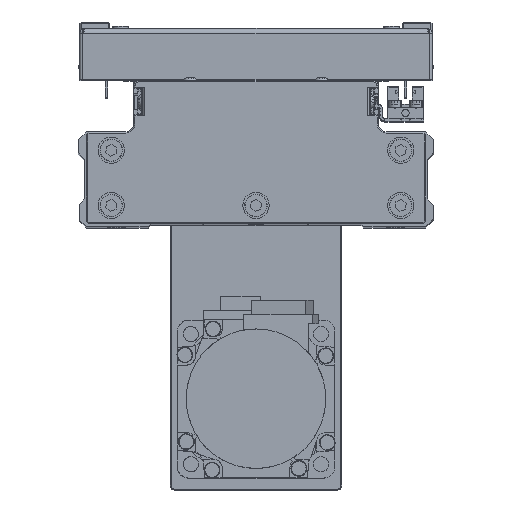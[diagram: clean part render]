
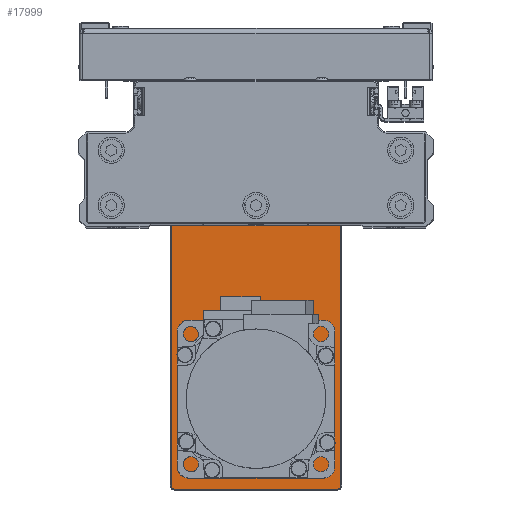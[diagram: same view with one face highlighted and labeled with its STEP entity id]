
A CAD part, top view. The second image highlights one B-rep face of the part: STEP entity #17999.
In plain terms, the highlighted planar face has unit normal (0, 0, 1) as drawn and (0, 1, 0) by its records, which use the part's own axes.
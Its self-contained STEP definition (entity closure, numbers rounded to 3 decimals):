
#136 = ORIENTED_EDGE ( 'NONE', *, *, #42461, .F. ) ;
#463 = ORIENTED_EDGE ( 'NONE', *, *, #11780, .T. ) ;
#522 = CARTESIAN_POINT ( 'NONE',  ( 84.7, 6., 0. ) ) ;
#863 = CIRCLE ( 'NONE', #24671, 15. ) ;
#923 = LINE ( 'NONE', #14386, #5919 ) ;
#1025 = ORIENTED_EDGE ( 'NONE', *, *, #9730, .F. ) ;
#1259 = DIRECTION ( 'NONE',  ( 0., 1., 0. ) ) ;
#1373 = CARTESIAN_POINT ( 'NONE',  ( 83.5, 6., 32.2 ) ) ;
#1389 = CARTESIAN_POINT ( 'NONE',  ( 84.7, 6., 31. ) ) ;
#1735 = AXIS2_PLACEMENT_3D ( 'NONE', #35506, #5283, #18746 ) ;
#1746 = FACE_BOUND ( 'NONE', #6910, .T. ) ;
#2269 = AXIS2_PLACEMENT_3D ( 'NONE', #5813, #19290, #32763 ) ;
#2864 = ORIENTED_EDGE ( 'NONE', *, *, #43309, .F. ) ;
#3233 = ORIENTED_EDGE ( 'NONE', *, *, #35255, .T. ) ;
#3277 = DIRECTION ( 'NONE',  ( 0., 1., 0. ) ) ;
#3352 = CARTESIAN_POINT ( 'NONE',  ( 83.5, 6., 31. ) ) ;
#3559 = VECTOR ( 'NONE', #9132, 1000. ) ;
#3754 = EDGE_CURVE ( 'NONE', #41441, #23006, #21292, .T. ) ;
#4466 = VECTOR ( 'NONE', #13300, 1000. ) ;
#4850 = ORIENTED_EDGE ( 'NONE', *, *, #10275, .T. ) ;
#4997 = DIRECTION ( 'NONE',  ( 0., 0., 1. ) ) ;
#5283 = DIRECTION ( 'NONE',  ( 0., -1., 0. ) ) ;
#5494 = EDGE_CURVE ( 'NONE', #9817, #11432, #25662, .T. ) ;
#5813 = CARTESIAN_POINT ( 'NONE',  ( 75.992, 6., -8.551 ) ) ;
#5890 = AXIS2_PLACEMENT_3D ( 'NONE', #11875, #25361, #38791 ) ;
#5919 = VECTOR ( 'NONE', #27862, 1000. ) ;
#5986 = CARTESIAN_POINT ( 'NONE',  ( -83.5, 6., -31. ) ) ;
#6100 = CIRCLE ( 'NONE', #30792, 15. ) ;
#6603 = AXIS2_PLACEMENT_3D ( 'NONE', #5986, #19458, #32927 ) ;
#6910 = EDGE_LOOP ( 'NONE', ( #7680, #17624 ) ) ;
#7170 = CIRCLE ( 'NONE', #31869, 1.2 ) ;
#7680 = ORIENTED_EDGE ( 'NONE', *, *, #9376, .T. ) ;
#7928 = CARTESIAN_POINT ( 'NONE',  ( -50.5, 6., 0. ) ) ;
#8142 = DIRECTION ( 'NONE',  ( 0., 0., 1. ) ) ;
#8149 = EDGE_CURVE ( 'NONE', #23006, #41441, #43143, .T. ) ;
#8921 = CARTESIAN_POINT ( 'NONE',  ( 52.5, 6., 10.3 ) ) ;
#9132 = DIRECTION ( 'NONE',  ( 0., 0., 1. ) ) ;
#9269 = EDGE_CURVE ( 'NONE', #28102, #9817, #30088, .T. ) ;
#9376 = EDGE_CURVE ( 'NONE', #26812, #29261, #13638, .T. ) ;
#9730 = EDGE_CURVE ( 'NONE', #27104, #28856, #863, .T. ) ;
#9817 = VERTEX_POINT ( 'NONE', #14988 ) ;
#10275 = EDGE_CURVE ( 'NONE', #11432, #38414, #25917, .T. ) ;
#10561 = VERTEX_POINT ( 'NONE', #1373 ) ;
#11160 = DIRECTION ( 'NONE',  ( 0., 0., 1. ) ) ;
#11432 = VERTEX_POINT ( 'NONE', #41972 ) ;
#11469 = ORIENTED_EDGE ( 'NONE', *, *, #9269, .T. ) ;
#11780 = EDGE_CURVE ( 'NONE', #30435, #28102, #7170, .T. ) ;
#11875 = CARTESIAN_POINT ( 'NONE',  ( 0., 6., 0. ) ) ;
#12135 = CARTESIAN_POINT ( 'NONE',  ( -50.5, 6., 15. ) ) ;
#13300 = DIRECTION ( 'NONE',  ( -1., 0., 0. ) ) ;
#13638 = CIRCLE ( 'NONE', #38286, 10.3 ) ;
#13750 = CARTESIAN_POINT ( 'NONE',  ( 52.5, 6., 0. ) ) ;
#13974 = DIRECTION ( 'NONE',  ( 0., 0., -1. ) ) ;
#14386 = CARTESIAN_POINT ( 'NONE',  ( 0., 6., 32.2 ) ) ;
#14722 = DIRECTION ( 'NONE',  ( 0., 0., -1. ) ) ;
#14819 = CARTESIAN_POINT ( 'NONE',  ( 61.051, 6., 23.492 ) ) ;
#14988 = CARTESIAN_POINT ( 'NONE',  ( -83.5, 6., -32.2 ) ) ;
#15150 = ORIENTED_EDGE ( 'NONE', *, *, #5494, .T. ) ;
#15196 = FACE_OUTER_BOUND ( 'NONE', #16600, .T. ) ;
#15478 = AXIS2_PLACEMENT_3D ( 'NONE', #3352, #16805, #30286 ) ;
#15777 = VERTEX_POINT ( 'NONE', #1389 ) ;
#16028 = CIRCLE ( 'NONE', #40688, 1.525 ) ;
#16600 = EDGE_LOOP ( 'NONE', ( #463, #11469, #15150, #4850, #36783, #22472, #3233, #37251 ) ) ;
#16727 = DIRECTION ( 'NONE',  ( 0., 0., -1. ) ) ;
#16805 = DIRECTION ( 'NONE',  ( 0., 1., 0. ) ) ;
#17624 = ORIENTED_EDGE ( 'NONE', *, *, #24012, .T. ) ;
#17745 = CARTESIAN_POINT ( 'NONE',  ( 75.992, 6., -7.026 ) ) ;
#17944 = CIRCLE ( 'NONE', #42613, 1.2 ) ;
#17999 = ADVANCED_FACE ( 'NONE', ( #18509, #31989, #1746, #15196, #28668 ), #42104, .F. ) ;
#18509 = FACE_BOUND ( 'NONE', #33379, .T. ) ;
#18746 = DIRECTION ( 'NONE',  ( 0., 0., -1. ) ) ;
#19290 = DIRECTION ( 'NONE',  ( 0., 1., 0. ) ) ;
#19458 = DIRECTION ( 'NONE',  ( 0., 1., 0. ) ) ;
#20435 = CARTESIAN_POINT ( 'NONE',  ( 84.7, 6., -31. ) ) ;
#20719 = VERTEX_POINT ( 'NONE', #28692 ) ;
#20755 = CIRCLE ( 'NONE', #1735, 10.3 ) ;
#21087 = AXIS2_PLACEMENT_3D ( 'NONE', #27956, #41387, #11160 ) ;
#21292 = CIRCLE ( 'NONE', #2269, 1.525 ) ;
#21398 = DIRECTION ( 'NONE',  ( 0., 1., 0. ) ) ;
#21777 = CARTESIAN_POINT ( 'NONE',  ( -50.5, 6., 0. ) ) ;
#22472 = ORIENTED_EDGE ( 'NONE', *, *, #23407, .T. ) ;
#22839 = CARTESIAN_POINT ( 'NONE',  ( 83.5, 6., -32.2 ) ) ;
#22898 = ORIENTED_EDGE ( 'NONE', *, *, #36342, .F. ) ;
#23006 = VERTEX_POINT ( 'NONE', #17745 ) ;
#23407 = EDGE_CURVE ( 'NONE', #20719, #10561, #923, .T. ) ;
#24012 = EDGE_CURVE ( 'NONE', #29261, #26812, #20755, .T. ) ;
#24131 = AXIS2_PLACEMENT_3D ( 'NONE', #24927, #38364, #8142 ) ;
#24240 = EDGE_CURVE ( 'NONE', #38414, #20719, #17944, .T. ) ;
#24671 = AXIS2_PLACEMENT_3D ( 'NONE', #7928, #21398, #34861 ) ;
#24927 = CARTESIAN_POINT ( 'NONE',  ( 75.992, 6., -8.551 ) ) ;
#25361 = DIRECTION ( 'NONE',  ( 0., -1., 0. ) ) ;
#25662 = CIRCLE ( 'NONE', #6603, 1.2 ) ;
#25917 = LINE ( 'NONE', #39358, #3559 ) ;
#26042 = VERTEX_POINT ( 'NONE', #29244 ) ;
#26046 = VERTEX_POINT ( 'NONE', #42678 ) ;
#26812 = VERTEX_POINT ( 'NONE', #8921 ) ;
#27104 = VERTEX_POINT ( 'NONE', #35138 ) ;
#27219 = DIRECTION ( 'NONE',  ( 0., -1., 0. ) ) ;
#27862 = DIRECTION ( 'NONE',  ( 1., 0., 0. ) ) ;
#27956 = CARTESIAN_POINT ( 'NONE',  ( 61.051, 6., 23.492 ) ) ;
#28102 = VERTEX_POINT ( 'NONE', #22839 ) ;
#28290 = DIRECTION ( 'NONE',  ( 0., 1., 0. ) ) ;
#28668 = FACE_BOUND ( 'NONE', #33124, .T. ) ;
#28692 = CARTESIAN_POINT ( 'NONE',  ( -83.5, 6., 32.2 ) ) ;
#28856 = VERTEX_POINT ( 'NONE', #12135 ) ;
#29244 = CARTESIAN_POINT ( 'NONE',  ( 61.051, 6., 21.967 ) ) ;
#29261 = VERTEX_POINT ( 'NONE', #39218 ) ;
#29285 = VECTOR ( 'NONE', #13974, 1000. ) ;
#29632 = EDGE_LOOP ( 'NONE', ( #33328, #30274 ) ) ;
#30088 = LINE ( 'NONE', #43520, #4466 ) ;
#30274 = ORIENTED_EDGE ( 'NONE', *, *, #3754, .F. ) ;
#30286 = DIRECTION ( 'NONE',  ( 0., 0., -1. ) ) ;
#30435 = VERTEX_POINT ( 'NONE', #20435 ) ;
#30769 = LINE ( 'NONE', #522, #29285 ) ;
#30792 = AXIS2_PLACEMENT_3D ( 'NONE', #21777, #35224, #4997 ) ;
#30887 = EDGE_CURVE ( 'NONE', #15777, #30435, #30769, .T. ) ;
#31514 = CARTESIAN_POINT ( 'NONE',  ( 83.5, 6., -31. ) ) ;
#31869 = AXIS2_PLACEMENT_3D ( 'NONE', #31514, #1259, #14722 ) ;
#31989 = FACE_BOUND ( 'NONE', #29632, .T. ) ;
#32763 = DIRECTION ( 'NONE',  ( 0., 0., 1. ) ) ;
#32927 = DIRECTION ( 'NONE',  ( 0., 0., -1. ) ) ;
#33124 = EDGE_LOOP ( 'NONE', ( #136, #1025 ) ) ;
#33328 = ORIENTED_EDGE ( 'NONE', *, *, #8149, .F. ) ;
#33379 = EDGE_LOOP ( 'NONE', ( #2864, #22898 ) ) ;
#33516 = CARTESIAN_POINT ( 'NONE',  ( -83.5, 6., 31. ) ) ;
#34514 = CIRCLE ( 'NONE', #15478, 1.2 ) ;
#34861 = DIRECTION ( 'NONE',  ( 0., 0., 1. ) ) ;
#35138 = CARTESIAN_POINT ( 'NONE',  ( -50.5, 6., -15. ) ) ;
#35224 = DIRECTION ( 'NONE',  ( 0., 1., 0. ) ) ;
#35255 = EDGE_CURVE ( 'NONE', #10561, #15777, #34514, .T. ) ;
#35506 = CARTESIAN_POINT ( 'NONE',  ( 52.5, 6., 0. ) ) ;
#36342 = EDGE_CURVE ( 'NONE', #26042, #26046, #40111, .T. ) ;
#36783 = ORIENTED_EDGE ( 'NONE', *, *, #24240, .T. ) ;
#37251 = ORIENTED_EDGE ( 'NONE', *, *, #30887, .T. ) ;
#38286 = AXIS2_PLACEMENT_3D ( 'NONE', #13750, #27219, #40654 ) ;
#38364 = DIRECTION ( 'NONE',  ( 0., 1., 0. ) ) ;
#38414 = VERTEX_POINT ( 'NONE', #43194 ) ;
#38791 = DIRECTION ( 'NONE',  ( 0., 0., -1. ) ) ;
#39218 = CARTESIAN_POINT ( 'NONE',  ( 52.5, 6., -10.3 ) ) ;
#39358 = CARTESIAN_POINT ( 'NONE',  ( -84.7, 6., 0. ) ) ;
#40111 = CIRCLE ( 'NONE', #21087, 1.525 ) ;
#40654 = DIRECTION ( 'NONE',  ( 0., 0., -1. ) ) ;
#40688 = AXIS2_PLACEMENT_3D ( 'NONE', #14819, #28290, #41734 ) ;
#41387 = DIRECTION ( 'NONE',  ( 0., 1., 0. ) ) ;
#41441 = VERTEX_POINT ( 'NONE', #42019 ) ;
#41734 = DIRECTION ( 'NONE',  ( 0., 0., 1. ) ) ;
#41972 = CARTESIAN_POINT ( 'NONE',  ( -84.7, 6., -31. ) ) ;
#42019 = CARTESIAN_POINT ( 'NONE',  ( 75.992, 6., -10.076 ) ) ;
#42104 = PLANE ( 'NONE',  #5890 ) ;
#42461 = EDGE_CURVE ( 'NONE', #28856, #27104, #6100, .T. ) ;
#42613 = AXIS2_PLACEMENT_3D ( 'NONE', #33516, #3277, #16727 ) ;
#42678 = CARTESIAN_POINT ( 'NONE',  ( 61.051, 6., 25.017 ) ) ;
#43143 = CIRCLE ( 'NONE', #24131, 1.525 ) ;
#43194 = CARTESIAN_POINT ( 'NONE',  ( -84.7, 6., 31. ) ) ;
#43309 = EDGE_CURVE ( 'NONE', #26046, #26042, #16028, .T. ) ;
#43520 = CARTESIAN_POINT ( 'NONE',  ( 0., 6., -32.2 ) ) ;
